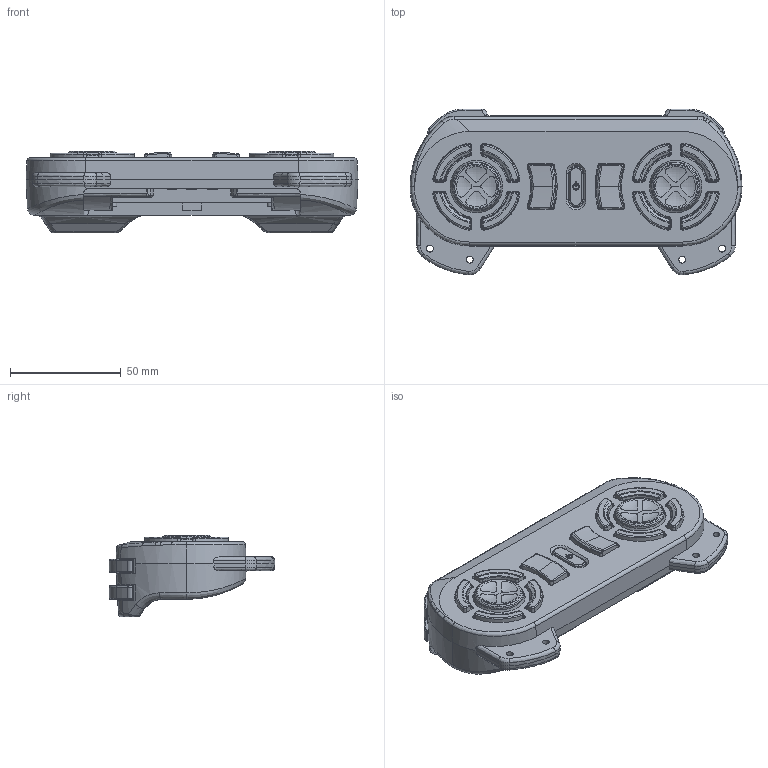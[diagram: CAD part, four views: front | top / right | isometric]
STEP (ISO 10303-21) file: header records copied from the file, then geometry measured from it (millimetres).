
FILE_DESCRIPTION(/* description */ (''),/* implementation_level */ '2;1');
FILE_NAME(/* name */ 'KRC5-B~1',/* time_stamp */ '2015-10-29T16:39:41+09:00',/* author */ (''),/* organization */ (''),/* preprocessor_version */ 'ST-DEVELOPER v15',/* originating_system */ '',/* authorisation */ '');
FILE_SCHEMA (('CONFIG_CONTROL_DESIGN'));
Length unit declared in the file: millimetre
Products named in the file (1): Document
Bounding box: 150 x 74.84 x 36.95 mm (x, y, z)
Volume: 188322.4 mm3; surface area: 36402.7 mm2
Topology: 1 solids, 1 shells, 1428 faces, 3712 edges, 2348 vertices
Faces by surface type: bspline 953, plane 475
Entity records: 64922 total; most frequent: CARTESIAN_POINT 42938, ORIENTED_EDGE 7372, EDGE_CURVE 3686, VERTEX_POINT 2348, B_SPLINE_CURVE_WITH_KNOTS 2270, EDGE_LOOP 1524, ADVANCED_FACE 1428, FACE_OUTER_BOUND 1428
